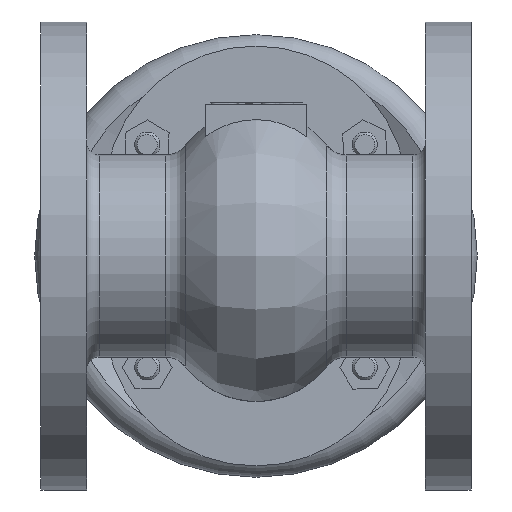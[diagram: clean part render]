
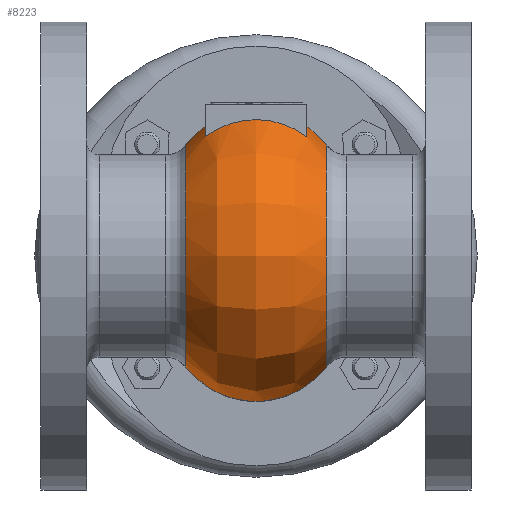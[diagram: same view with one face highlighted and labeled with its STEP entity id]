
A CAD part, front view. The second image highlights one B-rep face of the part: STEP entity #8223.
In plain terms, the highlighted free-form (B-spline) face has degree [2, 2] with [5, 5] control points.
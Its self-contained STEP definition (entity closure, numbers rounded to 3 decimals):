
#14=(
BOUNDED_SURFACE()
B_SPLINE_SURFACE(2,2,((#14209,#14210,#14211,#14212,#14213),(#14214,#14215,
#14216,#14217,#14218),(#14219,#14220,#14221,#14222,#14223),(#14224,#14225,
#14226,#14227,#14228),(#14229,#14230,#14231,#14232,#14233)),
 .UNSPECIFIED.,.F.,.F.,.F.)
B_SPLINE_SURFACE_WITH_KNOTS((3,2,3),(3,2,3),(-0.913,0.,
0.913),(-3.142,-1.571,0.),
 .UNSPECIFIED.)
GEOMETRIC_REPRESENTATION_ITEM()
RATIONAL_B_SPLINE_SURFACE(((1.,0.707,1.,0.707,1.),
(0.898,0.635,0.898,0.635,
0.898),(1.,0.707,1.,0.707,1.),(0.898,
0.635,0.898,0.635,0.898),
(1.,0.707,1.,0.707,1.)))
REPRESENTATION_ITEM('')
SURFACE()
);
#379=B_SPLINE_CURVE_WITH_KNOTS('',3,(#13096,#13097,#13098,#13099,#13100,
#13101,#13102,#13103,#13104,#13105,#13106,#13107,#13108,#13109,#13110,#13111,
#13112,#13113),.UNSPECIFIED.,.F.,.F.,(4,2,2,2,2,2,2,2,4),(4.873,
5.04,5.671,6.283,6.894,7.506,
8.118,8.749,8.916),.UNSPECIFIED.);
#994=FACE_OUTER_BOUND('',#1446,.T.);
#1446=EDGE_LOOP('',(#6751,#6752,#6753,#6754,#6755,#6756,#6757,#6758));
#3078=CIRCLE('',#8517,51.223);
#3080=CIRCLE('',#8522,51.223);
#3081=CIRCLE('',#8525,35.);
#3083=CIRCLE('',#8527,35.);
#3137=CIRCLE('',#8693,43.889);
#3141=CIRCLE('',#8698,43.889);
#3142=CIRCLE('',#8699,35.);
#3603=VERTEX_POINT('',#13087);
#3605=VERTEX_POINT('',#13090);
#3606=VERTEX_POINT('',#13095);
#3608=VERTEX_POINT('',#13120);
#3609=VERTEX_POINT('',#13125);
#3614=VERTEX_POINT('',#13142);
#3800=VERTEX_POINT('',#14132);
#3805=VERTEX_POINT('',#14234);
#4542=EDGE_CURVE('',#3605,#3603,#3078,.T.);
#4545=EDGE_CURVE('',#3606,#3605,#379,.T.);
#4550=EDGE_CURVE('',#3608,#3606,#3080,.T.);
#4551=EDGE_CURVE('',#3608,#3609,#3081,.T.);
#4557=EDGE_CURVE('',#3614,#3603,#3083,.T.);
#4838=EDGE_CURVE('',#3609,#3800,#3137,.T.);
#4844=EDGE_CURVE('',#3805,#3614,#3141,.T.);
#4845=EDGE_CURVE('',#3800,#3805,#3142,.T.);
#6751=ORIENTED_EDGE('',*,*,#4542,.T.);
#6752=ORIENTED_EDGE('',*,*,#4557,.F.);
#6753=ORIENTED_EDGE('',*,*,#4844,.F.);
#6754=ORIENTED_EDGE('',*,*,#4845,.F.);
#6755=ORIENTED_EDGE('',*,*,#4838,.F.);
#6756=ORIENTED_EDGE('',*,*,#4551,.F.);
#6757=ORIENTED_EDGE('',*,*,#4550,.T.);
#6758=ORIENTED_EDGE('',*,*,#4545,.T.);
#8223=ADVANCED_FACE('',(#994),#14,.F.);
#8517=AXIS2_PLACEMENT_3D('',#13091,#9576,#9577);
#8522=AXIS2_PLACEMENT_3D('',#13122,#9591,#9592);
#8525=AXIS2_PLACEMENT_3D('',#13126,#9597,#9598);
#8527=AXIS2_PLACEMENT_3D('',#13152,#9603,#9604);
#8693=AXIS2_PLACEMENT_3D('',#14138,#10113,#10114);
#8698=AXIS2_PLACEMENT_3D('',#14235,#10123,#10124);
#8699=AXIS2_PLACEMENT_3D('',#14236,#10125,#10126);
#9576=DIRECTION('center_axis',(-1.,0.,0.));
#9577=DIRECTION('ref_axis',(0.,0.,1.));
#9591=DIRECTION('center_axis',(1.,0.,0.));
#9592=DIRECTION('ref_axis',(0.,0.,1.));
#9597=DIRECTION('center_axis',(0.,1.,0.));
#9598=DIRECTION('ref_axis',(-1.,0.,0.));
#9603=DIRECTION('center_axis',(0.,1.,0.));
#9604=DIRECTION('ref_axis',(-1.,0.,0.));
#10113=DIRECTION('center_axis',(1.,0.,0.));
#10114=DIRECTION('ref_axis',(0.,-1.,0.));
#10123=DIRECTION('center_axis',(-1.,0.,0.));
#10124=DIRECTION('ref_axis',(0.,-1.,0.));
#10125=DIRECTION('center_axis',(0.,1.,0.));
#10126=DIRECTION('ref_axis',(1.,0.,0.));
#13087=CARTESIAN_POINT('',(-82.454,-31.984,51.223));
#13090=CARTESIAN_POINT('',(-82.454,-51.984,47.157));
#13091=CARTESIAN_POINT('Origin',(-82.454,-31.984,0.));
#13095=CARTESIAN_POINT('',(-42.454,-51.984,47.157));
#13096=CARTESIAN_POINT('Ctrl Pts',(-42.454,-51.984,47.157));
#13097=CARTESIAN_POINT('Ctrl Pts',(-42.936,-51.984,
47.521));
#13098=CARTESIAN_POINT('Ctrl Pts',(-43.43,-51.984,
47.875));
#13099=CARTESIAN_POINT('Ctrl Pts',(-45.832,-51.984,
49.497));
#13100=CARTESIAN_POINT('Ctrl Pts',(-47.869,-51.984,
50.574));
#13101=CARTESIAN_POINT('Ctrl Pts',(-51.693,-51.984,
52.164));
#13102=CARTESIAN_POINT('Ctrl Pts',(-53.827,-51.984,
52.834));
#13103=CARTESIAN_POINT('Ctrl Pts',(-58.188,-51.984,
53.707));
#13104=CARTESIAN_POINT('Ctrl Pts',(-60.415,-51.984,
53.91));
#13105=CARTESIAN_POINT('Ctrl Pts',(-64.494,-51.984,
53.91));
#13106=CARTESIAN_POINT('Ctrl Pts',(-66.721,-51.984,
53.707));
#13107=CARTESIAN_POINT('Ctrl Pts',(-71.081,-51.984,
52.834));
#13108=CARTESIAN_POINT('Ctrl Pts',(-73.215,-51.984,
52.164));
#13109=CARTESIAN_POINT('Ctrl Pts',(-77.039,-51.984,50.574));
#13110=CARTESIAN_POINT('Ctrl Pts',(-79.076,-51.984,
49.497));
#13111=CARTESIAN_POINT('Ctrl Pts',(-81.479,-51.984,
47.875));
#13112=CARTESIAN_POINT('Ctrl Pts',(-81.973,-51.984,
47.521));
#13113=CARTESIAN_POINT('Ctrl Pts',(-82.454,-51.984,47.157));
#13120=CARTESIAN_POINT('',(-42.454,-31.984,51.223));
#13122=CARTESIAN_POINT('Origin',(-42.454,-31.984,0.));
#13125=CARTESIAN_POINT('',(-34.75,-31.984,43.889));
#13126=CARTESIAN_POINT('Origin',(-62.454,-31.984,22.5));
#13142=CARTESIAN_POINT('',(-90.158,-31.984,43.889));
#13152=CARTESIAN_POINT('Origin',(-62.454,-31.984,22.5));
#14132=CARTESIAN_POINT('',(-34.75,-31.984,-43.889));
#14138=CARTESIAN_POINT('Origin',(-34.75,-31.984,0.));
#14209=CARTESIAN_POINT('Ctrl Pts',(-34.75,-31.984,
-43.889));
#14210=CARTESIAN_POINT('Ctrl Pts',(-34.75,-75.873,
-43.889));
#14211=CARTESIAN_POINT('Ctrl Pts',(-34.75,-75.873,
0.));
#14212=CARTESIAN_POINT('Ctrl Pts',(-34.75,-75.873,
43.889));
#14213=CARTESIAN_POINT('Ctrl Pts',(-34.75,-31.984,
43.889));
#14214=CARTESIAN_POINT('Ctrl Pts',(-45.259,-31.984,
-57.5));
#14215=CARTESIAN_POINT('Ctrl Pts',(-45.259,-89.484,
-57.5));
#14216=CARTESIAN_POINT('Ctrl Pts',(-45.259,-89.484,
0.));
#14217=CARTESIAN_POINT('Ctrl Pts',(-45.259,-89.484,
57.5));
#14218=CARTESIAN_POINT('Ctrl Pts',(-45.259,-31.984,
57.5));
#14219=CARTESIAN_POINT('Ctrl Pts',(-62.454,-31.984,-57.5));
#14220=CARTESIAN_POINT('Ctrl Pts',(-62.454,-89.484,-57.5));
#14221=CARTESIAN_POINT('Ctrl Pts',(-62.454,-89.484,0.));
#14222=CARTESIAN_POINT('Ctrl Pts',(-62.454,-89.484,57.5));
#14223=CARTESIAN_POINT('Ctrl Pts',(-62.454,-31.984,57.5));
#14224=CARTESIAN_POINT('Ctrl Pts',(-79.65,-31.984,
-57.5));
#14225=CARTESIAN_POINT('Ctrl Pts',(-79.65,-89.484,
-57.5));
#14226=CARTESIAN_POINT('Ctrl Pts',(-79.65,-89.484,
0.));
#14227=CARTESIAN_POINT('Ctrl Pts',(-79.65,-89.484,
57.5));
#14228=CARTESIAN_POINT('Ctrl Pts',(-79.65,-31.984,
57.5));
#14229=CARTESIAN_POINT('Ctrl Pts',(-90.158,-31.984,
-43.889));
#14230=CARTESIAN_POINT('Ctrl Pts',(-90.158,-75.873,
-43.889));
#14231=CARTESIAN_POINT('Ctrl Pts',(-90.158,-75.873,
0.));
#14232=CARTESIAN_POINT('Ctrl Pts',(-90.158,-75.873,
43.889));
#14233=CARTESIAN_POINT('Ctrl Pts',(-90.158,-31.984,
43.889));
#14234=CARTESIAN_POINT('',(-90.158,-31.984,-43.889));
#14235=CARTESIAN_POINT('Origin',(-90.158,-31.984,0.));
#14236=CARTESIAN_POINT('Origin',(-62.454,-31.984,-22.5));
